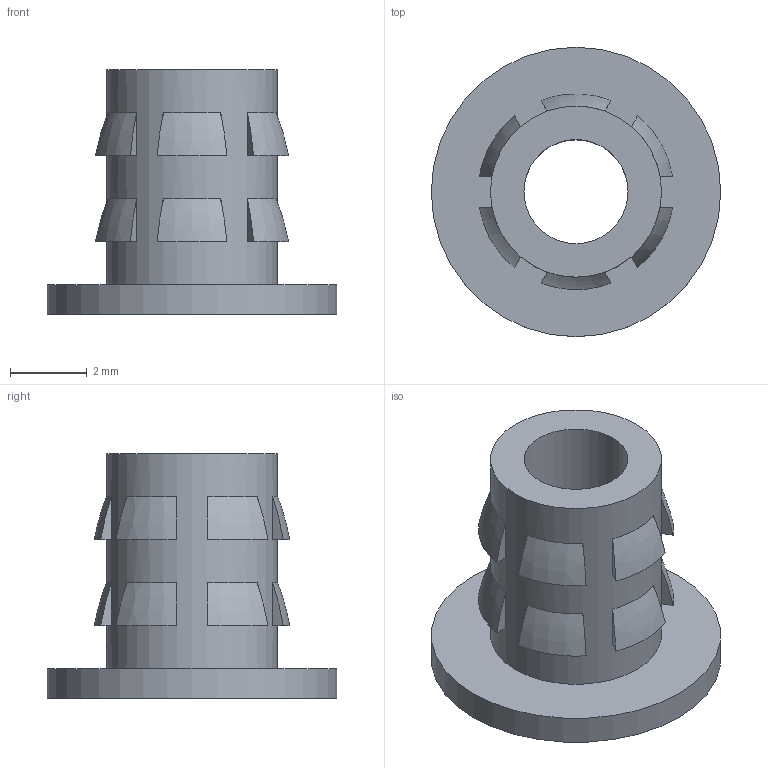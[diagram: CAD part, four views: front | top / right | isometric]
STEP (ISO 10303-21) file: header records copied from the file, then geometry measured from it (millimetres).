
FILE_DESCRIPTION (( 'STEP AP214' ), '1' );
FILE_NAME ('FLanged insert 6-32.STEP', '2017-08-09T04:29:02', ( '微软用户' ), ( '微软中国' ), 'SwSTEP 2.0', 'SolidWorks 2015', '' );
FILE_SCHEMA (( 'AUTOMOTIVE_DESIGN' ));
Length unit declared in the file: millimetre
Products named in the file (1): FLanged insert 6-32
Bounding box: 7.52 x 7.52 x 6.35 mm (x, y, z)
Volume: 84.7 mm3; surface area: 238.8 mm2
Topology: 1 solids, 1 shells, 55 faces, 119 edges, 79 vertices
Faces by surface type: plane 39, bspline 12, cylinder 3, cone 1
Full cylindrical faces by diameter (mm): 2.705 x1, 4.445 x1, 7.518 x1
Entity records: 2503 total; most frequent: CARTESIAN_POINT 778, ORIENTED_EDGE 230, DIRECTION 174, EDGE_CURVE 115, VERTEX_POINT 79, EDGE_LOOP 74, AXIS2_PLACEMENT_3D 63, FACE_OUTER_BOUND 58
